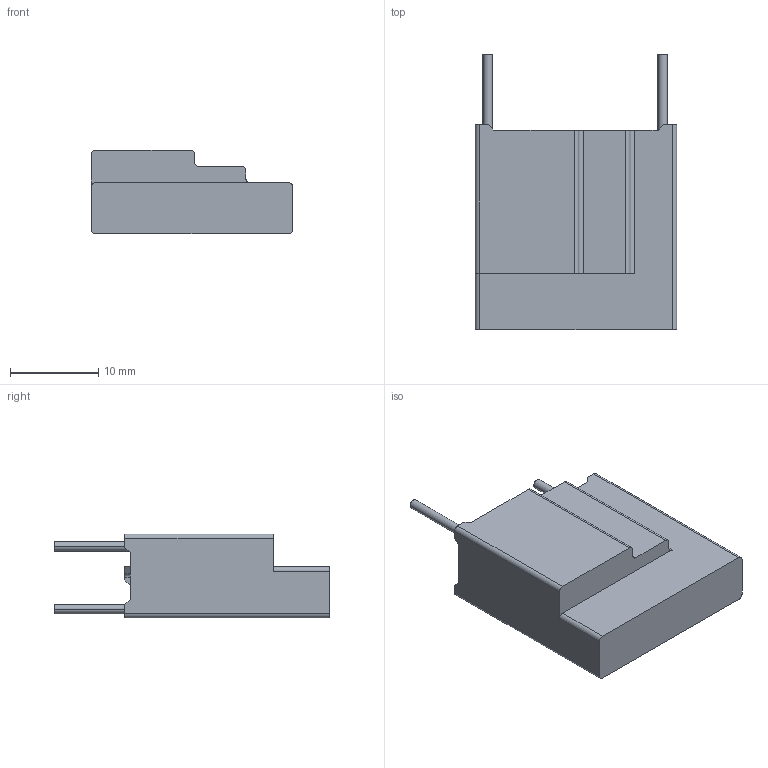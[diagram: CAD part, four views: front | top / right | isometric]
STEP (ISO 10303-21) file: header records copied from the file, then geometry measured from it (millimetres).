
FILE_DESCRIPTION((''),'2;1');
FILE_NAME('20S4301-20200616','2020-06-18T',('set'),(''),'PRO/ENGINEER BY PARAMETRIC TECHNOLOGY CORPORATION, 2012310','PRO/ENGINEER BY PARAMETRIC TECHNOLOGY CORPORATION, 2012310','');
FILE_SCHEMA(('CONFIG_CONTROL_DESIGN','SHAPE_APPEARANCE_LAYERS_GROUPS'));
Length unit declared in the file: millimetre
Products named in the file (1): 20S4301-20200616
Bounding box: 22.8 x 31.2 x 9.5 mm (x, y, z)
Volume: 1299.2 mm3; surface area: 3341.3 mm2
Topology: 1 solids, 2 shells, 101 faces, 284 edges, 189 vertices
Faces by surface type: plane 77, cylinder 24
Entity records: 3288 total; most frequent: CARTESIAN_POINT 574, ORIENTED_EDGE 568, DIRECTION 535, EDGE_CURVE 284, VECTOR 235, LINE 235, VERTEX_POINT 189, AXIS2_PLACEMENT_3D 150
